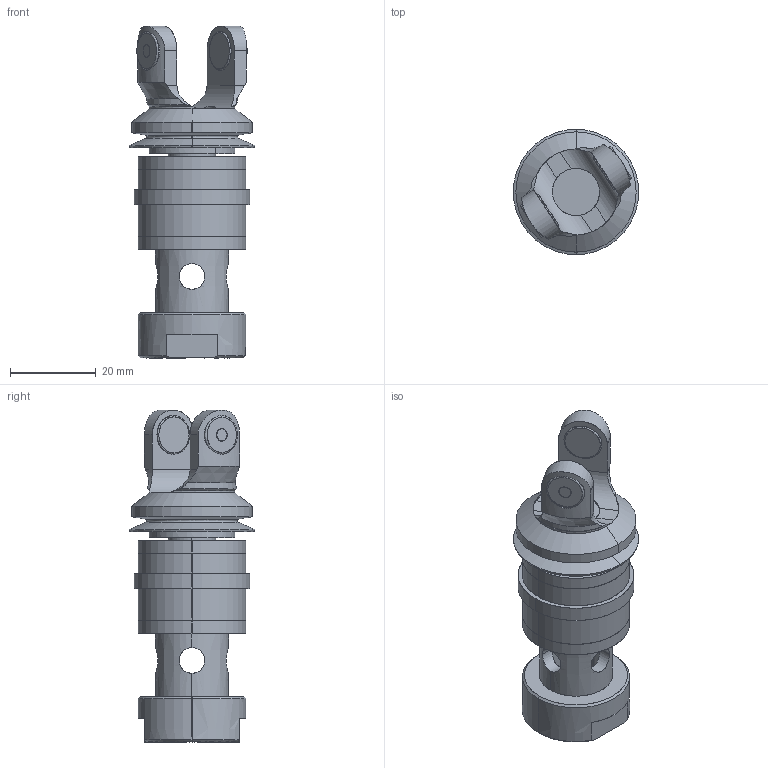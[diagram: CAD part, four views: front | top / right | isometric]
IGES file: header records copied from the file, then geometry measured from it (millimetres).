
Start section: SolidWorks IGES file using analytic representation for surfaces
Global section: file name: C:\Users\SELUHAA\Desktop\Work items\545792\IGES\IRB360_X-1130-STD-4D_rev03_IGES_J\IRB360_X-1130-STD-4D_rev03_FACEPLATE_CAD.IGS; native system: SolidWorks 2022; preprocessor: SolidWorks 2022; author: SELUHAA; date: 231204.084304; units: millimetre
Bounding box: 29.23 x 29.23 x 77.3 mm (x, y, z)
Surface area: 13128.6 mm2 (no closed solid volume)
Topology: 0 solids, 0 shells, 183 faces, 3303 edges, 3289 vertices
Faces by surface type: revolution 121, bspline 62
